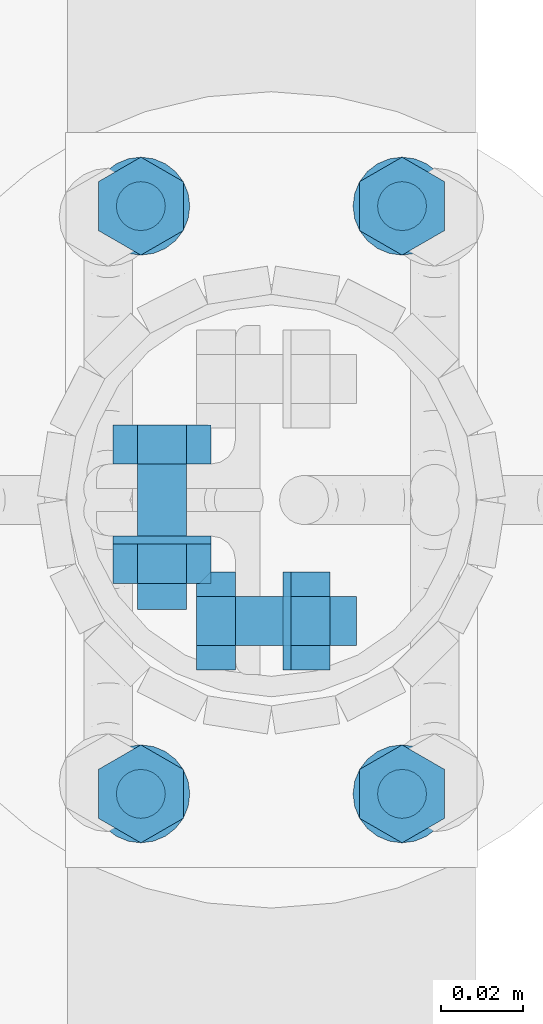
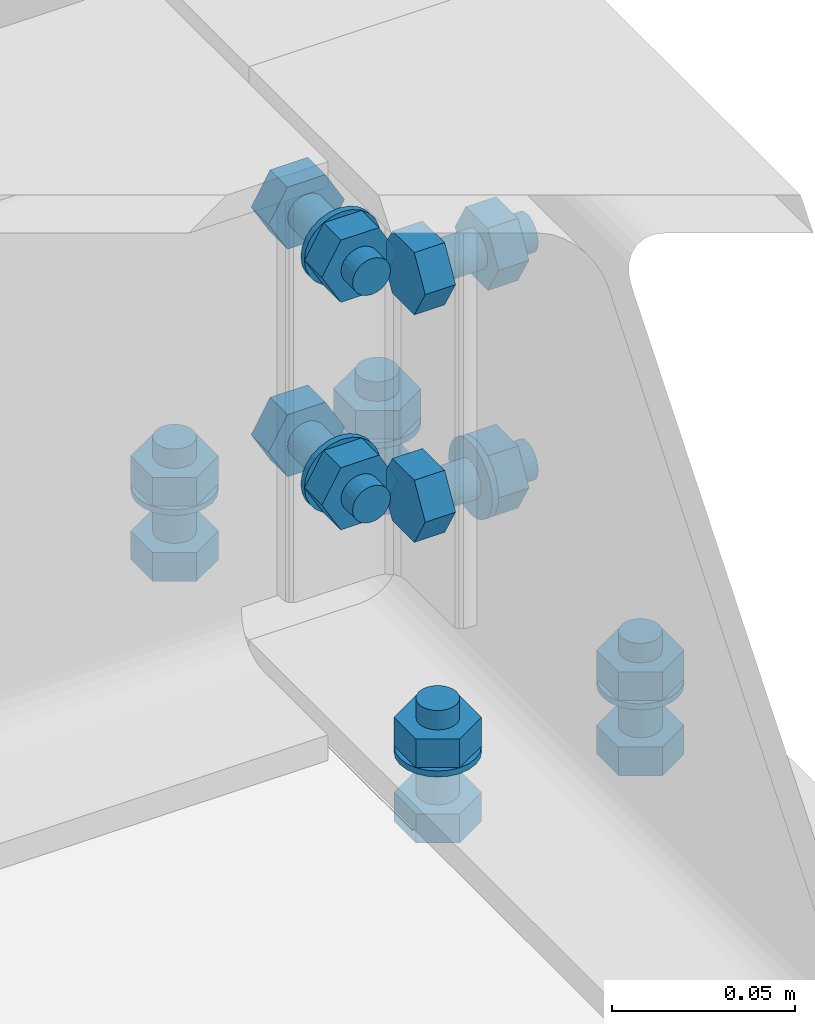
# One storey, part 65 of 84: 39 mechanical fasteners.
"""IFC4 building model written with IfcOpenShell, lengths in metres."""

from ifc_helpers import new_model, si_unit, frame, origin_with_axes, place, context, project, spatial, polyline, outline, extrude, type_object, element, save


model = new_model("IFC4")

# Units and contexts
model_context = context("Model", 3, precision=1e-05, world=origin_with_axes())
ifc_project = project(units=[si_unit("LENGTHUNIT", "METRE"), si_unit("AREAUNIT", "SQUARE_METRE"), si_unit("VOLUMEUNIT", "CUBIC_METRE"), si_unit("MASSUNIT", "GRAM", prefix="KILO"), si_unit("TIMEUNIT", "SECOND"), si_unit("PLANEANGLEUNIT", "RADIAN"), si_unit("SOLIDANGLEUNIT", "STERADIAN"), si_unit("THERMODYNAMICTEMPERATUREUNIT", "DEGREE_CELSIUS")], contexts=[model_context])

# Site, building, storey
placement_1 = place(None, origin_with_axes())
site = spatial("IfcSite", under=ifc_project, at=placement_1, Name="Italia", CompositionType="ELEMENT")
building = spatial("IfcBuilding", under=site, at=placement_1, Name="Tettoia", CompositionType="ELEMENT")
storey_placement = place(None, frame((0.0, 0.0, 4.199999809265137), z_axis=(0.0, 0.0, 1.0), x_axis=(1.0, 0.0, 0.0)))
storey = spatial("IfcBuildingStorey", under=building, at=storey_placement, Name="Storey 1", CompositionType="ELEMENT", Elevation=4.199999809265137)

# Mechanical fasteners
mechanical_fastener_type_1 = type_object("IfcMechanicalFastenerType", Name="Collegamento 0110_-010", PredefinedType="BOLT")
placement_2 = place(placement_1, origin_with_axes())
mechanical_fastener_1_placement = place(placement_2, origin_with_axes())
element("IfcMechanicalFastener", 1, at=mechanical_fastener_1_placement, inside=storey, type_object=mechanical_fastener_type_1, Name="Collegamento 0110_-010", NominalDiameter=0.0119997, context=model_context, shape_type="SweptSolid", body=[
    extrude(outline(polyline([(0.0, 0.0), (0.0120001, 0.0), (0.0179996, -0.0103931), (0.0120001, -0.0207853), (0.0, -0.0207853), (-0.00599957, -0.0103931), (0.0, 0.0)])), frame((11.3324, 10.036, 4.195), z_axis=(0.0, 0.0, -1.0), x_axis=(0.0, 1.0, 0.0)), (0.0, 0.0, 1.0), 0.00959969),
])
mechanical_fastener_type_2 = type_object("IfcMechanicalFastenerType", Name="Collegamento 0110_-010", PredefinedType="BOLT")
mechanical_fastener_2_placement = place(placement_2, origin_with_axes())
element("IfcMechanicalFastener", 2, at=mechanical_fastener_2_placement, inside=storey, type_object=mechanical_fastener_type_2, Name="Collegamento 0110_-010", NominalDiameter=0.012, context=model_context, shape_type="SweptSolid", body=[
    extrude(outline(polyline([(0.0, 0.0), (-0.000204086, -0.00155258), (-0.000802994, -0.00300026), (-0.00175667, -0.0042429), (-0.00299931, -0.00519657), (-0.00444698, -0.00579548), (-0.00599957, -0.00599957), (-0.00755215, -0.00579548), (-0.00899982, -0.00519657), (-0.0102425, -0.0042429), (-0.0111961, -0.00300026), (-0.011795, -0.00155258), (-0.0119991, 0.0), (-0.011795, 0.00155258), (-0.0111961, 0.00300026), (-0.0102425, 0.0042429), (-0.00899982, 0.00519657), (-0.00755215, 0.00579548), (-0.00599957, 0.00599957), (-0.00444698, 0.00579548), (-0.00299931, 0.00519657), (-0.00175667, 0.0042429), (-0.000802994, 0.00300026), (-0.000204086, 0.00155258), (0.0, 0.0)])), frame((11.322, 10.048, 4.2265), z_axis=(0.0, 0.0, -1.0), x_axis=(0.0, 1.0, 0.0)), (0.0, 0.0, 1.0), 0.0315003),
])
mechanical_fastener_type_3 = type_object("IfcMechanicalFastenerType", Name="Collegamento 0110_-010", PredefinedType="BOLT")
mechanical_fastener_3_placement = place(placement_2, origin_with_axes())
element("IfcMechanicalFastener", 3, at=mechanical_fastener_3_placement, inside=storey, type_object=mechanical_fastener_type_3, Name="Collegamento 0110_-010", NominalDiameter=0.0119997, context=model_context, shape_type="SweptSolid", body=[
    extrude(outline(polyline([(0.0, 0.0), (0.0120001, 0.0), (0.0179996, -0.0103931), (0.0120001, -0.0207853), (0.0, -0.0207853), (-0.00599957, -0.0103931), (0.0, 0.0)])), frame((11.3324, 10.036, 4.2201), z_axis=(0.0, 0.0, -1.0), x_axis=(0.0, 1.0, 0.0)), (0.0, 0.0, 1.0), 0.00960016),
])
mechanical_fastener_type_4 = type_object("IfcMechanicalFastenerType", Name="Collegamento 0110_-010", PredefinedType="BOLT")
mechanical_fastener_4_placement = place(placement_2, origin_with_axes())
element("IfcMechanicalFastener", 4, at=mechanical_fastener_4_placement, inside=storey, type_object=mechanical_fastener_type_4, Name="Collegamento 0110_-010", NominalDiameter=0.024, context=model_context, shape_type="SweptSolid", body=[
    extrude(outline(polyline([(0.0, 0.0), (-0.000409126, -0.00310612), (-0.00160789, -0.00599957), (-0.00351524, -0.00848484), (-0.00600052, -0.0103922), (-0.00889397, -0.011591), (-0.0120001, -0.0120001), (-0.0151062, -0.011591), (-0.0179996, -0.0103922), (-0.0204849, -0.00848484), (-0.0223923, -0.00599957), (-0.023591, -0.00310612), (-0.0240002, 0.0), (-0.023591, 0.00310612), (-0.0223923, 0.00599957), (-0.0204849, 0.00848484), (-0.0179996, 0.0103922), (-0.0151062, 0.011591), (-0.0120001, 0.0120001), (-0.00889397, 0.011591), (-0.00600052, 0.0103922), (-0.00351524, 0.00848484), (-0.00160789, 0.00599957), (-0.000409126, 0.00310612), (0.0, 0.0)])), frame((11.322, 10.054, 4.2105), z_axis=(0.0, 0.0, -1.0), x_axis=(0.0, 1.0, 0.0)), (0.0, 0.0, 1.0), 0.00199986),
])
mechanical_fastener_type_5 = type_object("IfcMechanicalFastenerType", Name="Collegamento 0110_-010", PredefinedType="BOLT")
mechanical_fastener_5_placement = place(placement_2, origin_with_axes())
element("IfcMechanicalFastener", 5, at=mechanical_fastener_5_placement, inside=storey, type_object=mechanical_fastener_type_5, Name="Collegamento 0110_-010", NominalDiameter=0.0119997, context=model_context, shape_type="SweptSolid", body=[
    extrude(outline(polyline([(0.0, 0.0), (0.0120001, 0.0), (0.0179996, -0.0103931), (0.0120001, -0.0207853), (0.0, -0.0207853), (-0.00599957, -0.0103931), (0.0, 0.0)])), frame((11.3324, 9.892, 4.195), z_axis=(0.0, 0.0, -1.0), x_axis=(0.0, 1.0, 0.0)), (0.0, 0.0, 1.0), 0.00959969),
])
mechanical_fastener_type_6 = type_object("IfcMechanicalFastenerType", Name="Collegamento 0110_-010", PredefinedType="BOLT")
mechanical_fastener_6_placement = place(placement_2, origin_with_axes())
element("IfcMechanicalFastener", 6, at=mechanical_fastener_6_placement, inside=storey, type_object=mechanical_fastener_type_6, Name="Collegamento 0110_-010", NominalDiameter=0.012, context=model_context, shape_type="SweptSolid", body=[
    extrude(outline(polyline([(0.0, 0.0), (-0.000204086, -0.00155258), (-0.000802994, -0.00300026), (-0.00175667, -0.0042429), (-0.00299931, -0.00519657), (-0.00444698, -0.00579548), (-0.00599957, -0.00599957), (-0.00755215, -0.00579548), (-0.00899982, -0.00519657), (-0.0102425, -0.0042429), (-0.0111961, -0.00300026), (-0.011795, -0.00155258), (-0.0119991, 0.0), (-0.011795, 0.00155258), (-0.0111961, 0.00300026), (-0.0102425, 0.0042429), (-0.00899982, 0.00519657), (-0.00755215, 0.00579548), (-0.00599957, 0.00599957), (-0.00444698, 0.00579548), (-0.00299931, 0.00519657), (-0.00175667, 0.0042429), (-0.000802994, 0.00300026), (-0.000204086, 0.00155258), (0.0, 0.0)])), frame((11.322, 9.904, 4.2265), z_axis=(0.0, 0.0, -1.0), x_axis=(0.0, 1.0, 0.0)), (0.0, 0.0, 1.0), 0.0315003),
])
mechanical_fastener_type_7 = type_object("IfcMechanicalFastenerType", Name="Collegamento 0110_-010", PredefinedType="BOLT")
mechanical_fastener_7_placement = place(placement_2, origin_with_axes())
element("IfcMechanicalFastener", 7, at=mechanical_fastener_7_placement, inside=storey, type_object=mechanical_fastener_type_7, Name="Collegamento 0110_-010", NominalDiameter=0.0119997, context=model_context, shape_type="SweptSolid", body=[
    extrude(outline(polyline([(0.0, 0.0), (0.0120001, 0.0), (0.0179996, -0.0103931), (0.0120001, -0.0207853), (0.0, -0.0207853), (-0.00599957, -0.0103931), (0.0, 0.0)])), frame((11.3324, 9.892, 4.2201), z_axis=(0.0, 0.0, -1.0), x_axis=(0.0, 1.0, 0.0)), (0.0, 0.0, 1.0), 0.00960016),
])
mechanical_fastener_type_8 = type_object("IfcMechanicalFastenerType", Name="Collegamento 0110_-010", PredefinedType="BOLT")
mechanical_fastener_8_placement = place(placement_2, origin_with_axes())
element("IfcMechanicalFastener", 8, at=mechanical_fastener_8_placement, inside=storey, type_object=mechanical_fastener_type_8, Name="Collegamento 0110_-010", NominalDiameter=0.024, context=model_context, shape_type="SweptSolid", body=[
    extrude(outline(polyline([(0.0, 0.0), (-0.000409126, -0.00310612), (-0.00160789, -0.00599957), (-0.00351524, -0.00848484), (-0.00600052, -0.0103922), (-0.00889397, -0.011591), (-0.0120001, -0.0120001), (-0.0151062, -0.011591), (-0.0179996, -0.0103922), (-0.0204849, -0.00848484), (-0.0223923, -0.00599957), (-0.023591, -0.00310612), (-0.0240002, 0.0), (-0.023591, 0.00310612), (-0.0223923, 0.00599957), (-0.0204849, 0.00848484), (-0.0179996, 0.0103922), (-0.0151062, 0.011591), (-0.0120001, 0.0120001), (-0.00889397, 0.011591), (-0.00600052, 0.0103922), (-0.00351524, 0.00848484), (-0.00160789, 0.00599957), (-0.000409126, 0.00310612), (0.0, 0.0)])), frame((11.322, 9.91, 4.2105), z_axis=(0.0, 0.0, -1.0), x_axis=(0.0, 1.0, 0.0)), (0.0, 0.0, 1.0), 0.00199986),
])
mechanical_fastener_type_9 = type_object("IfcMechanicalFastenerType", Name="Collegamento 0110_-010", PredefinedType="BOLT")
mechanical_fastener_9_placement = place(placement_2, origin_with_axes())
element("IfcMechanicalFastener", 9, at=mechanical_fastener_9_placement, inside=storey, type_object=mechanical_fastener_type_9, Name="Collegamento 0110_-010", NominalDiameter=0.0119997, context=model_context, shape_type="SweptSolid", body=[
    extrude(outline(polyline([(0.0, 0.0), (0.0120001, 0.0), (0.0179996, -0.0103922), (0.0120001, -0.0207853), (0.0, -0.0207853), (-0.00599957, -0.0103922), (0.0, 0.0)])), frame((11.2684, 10.036, 4.195), z_axis=(0.0, 0.0, -1.0), x_axis=(0.0, 1.0, 0.0)), (0.0, 0.0, 1.0), 0.00959969),
])
mechanical_fastener_type_10 = type_object("IfcMechanicalFastenerType", Name="Collegamento 0110_-010", PredefinedType="BOLT")
mechanical_fastener_10_placement = place(placement_2, origin_with_axes())
element("IfcMechanicalFastener", 10, at=mechanical_fastener_10_placement, inside=storey, type_object=mechanical_fastener_type_10, Name="Collegamento 0110_-010", NominalDiameter=0.012, context=model_context, shape_type="SweptSolid", body=[
    extrude(outline(polyline([(0.0, 0.0), (-0.000204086, -0.00155258), (-0.000802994, -0.00300026), (-0.00175667, -0.0042429), (-0.00299931, -0.00519657), (-0.00444698, -0.00579548), (-0.00599957, -0.00599957), (-0.00755215, -0.00579548), (-0.00899982, -0.00519657), (-0.0102425, -0.0042429), (-0.0111961, -0.00300026), (-0.011795, -0.00155258), (-0.0119991, 0.0), (-0.011795, 0.00155258), (-0.0111961, 0.00300026), (-0.0102425, 0.0042429), (-0.00899982, 0.00519657), (-0.00755215, 0.00579548), (-0.00599957, 0.00599957), (-0.00444698, 0.00579548), (-0.00299931, 0.00519657), (-0.00175667, 0.0042429), (-0.000802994, 0.00300026), (-0.000204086, 0.00155258), (0.0, 0.0)])), frame((11.258, 10.048, 4.2265), z_axis=(0.0, 0.0, -1.0), x_axis=(0.0, 1.0, 0.0)), (0.0, 0.0, 1.0), 0.0315003),
])
mechanical_fastener_type_11 = type_object("IfcMechanicalFastenerType", Name="Collegamento 0110_-010", PredefinedType="BOLT")
mechanical_fastener_11_placement = place(placement_2, origin_with_axes())
element("IfcMechanicalFastener", 11, at=mechanical_fastener_11_placement, inside=storey, type_object=mechanical_fastener_type_11, Name="Collegamento 0110_-010", NominalDiameter=0.0119997, context=model_context, shape_type="SweptSolid", body=[
    extrude(outline(polyline([(0.0, 0.0), (0.0120001, 0.0), (0.0179996, -0.0103922), (0.0120001, -0.0207853), (0.0, -0.0207853), (-0.00599957, -0.0103922), (0.0, 0.0)])), frame((11.2684, 10.036, 4.2201), z_axis=(0.0, 0.0, -1.0), x_axis=(0.0, 1.0, 0.0)), (0.0, 0.0, 1.0), 0.00960016),
])
mechanical_fastener_type_12 = type_object("IfcMechanicalFastenerType", Name="Collegamento 0110_-010", PredefinedType="BOLT")
mechanical_fastener_12_placement = place(placement_2, origin_with_axes())
element("IfcMechanicalFastener", 12, at=mechanical_fastener_12_placement, inside=storey, type_object=mechanical_fastener_type_12, Name="Collegamento 0110_-010", NominalDiameter=0.024, context=model_context, shape_type="SweptSolid", body=[
    extrude(outline(polyline([(0.0, 0.0), (-0.000409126, -0.00310612), (-0.00160789, -0.00599957), (-0.00351524, -0.00848484), (-0.00600052, -0.0103922), (-0.00889397, -0.011591), (-0.0120001, -0.0120001), (-0.0151062, -0.011591), (-0.0179996, -0.0103922), (-0.0204849, -0.00848484), (-0.0223923, -0.00599957), (-0.023591, -0.00310612), (-0.0240002, 0.0), (-0.023591, 0.00310612), (-0.0223923, 0.00599957), (-0.0204849, 0.00848484), (-0.0179996, 0.0103922), (-0.0151062, 0.011591), (-0.0120001, 0.0120001), (-0.00889397, 0.011591), (-0.00600052, 0.0103922), (-0.00351524, 0.00848484), (-0.00160789, 0.00599957), (-0.000409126, 0.00310612), (0.0, 0.0)])), frame((11.258, 10.054, 4.2105), z_axis=(0.0, 0.0, -1.0), x_axis=(0.0, 1.0, 0.0)), (0.0, 0.0, 1.0), 0.00199986),
])
mechanical_fastener_type_13 = type_object("IfcMechanicalFastenerType", Name="Collegamento 0110_-010", PredefinedType="BOLT")
mechanical_fastener_13_placement = place(placement_2, origin_with_axes())
element("IfcMechanicalFastener", 13, at=mechanical_fastener_13_placement, inside=storey, type_object=mechanical_fastener_type_13, Name="Collegamento 0110_-010", NominalDiameter=0.0119997, context=model_context, shape_type="SweptSolid", body=[
    extrude(outline(polyline([(0.0, 0.0), (0.0120001, 0.0), (0.0179996, -0.0103922), (0.0120001, -0.0207853), (0.0, -0.0207853), (-0.00599957, -0.0103922), (0.0, 0.0)])), frame((11.2684, 9.892, 4.195), z_axis=(0.0, 0.0, -1.0), x_axis=(0.0, 1.0, 0.0)), (0.0, 0.0, 1.0), 0.00959969),
])
mechanical_fastener_type_14 = type_object("IfcMechanicalFastenerType", Name="Collegamento 0110_-010", PredefinedType="BOLT")
mechanical_fastener_14_placement = place(placement_2, origin_with_axes())
element("IfcMechanicalFastener", 14, at=mechanical_fastener_14_placement, inside=storey, type_object=mechanical_fastener_type_14, Name="Collegamento 0110_-010", NominalDiameter=0.012, context=model_context, shape_type="SweptSolid", body=[
    extrude(outline(polyline([(0.0, 0.0), (-0.000204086, -0.00155258), (-0.000802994, -0.00300026), (-0.00175667, -0.0042429), (-0.00299931, -0.00519657), (-0.00444698, -0.00579548), (-0.00599957, -0.00599957), (-0.00755215, -0.00579548), (-0.00899982, -0.00519657), (-0.0102425, -0.0042429), (-0.0111961, -0.00300026), (-0.011795, -0.00155258), (-0.0119991, 0.0), (-0.011795, 0.00155258), (-0.0111961, 0.00300026), (-0.0102425, 0.0042429), (-0.00899982, 0.00519657), (-0.00755215, 0.00579548), (-0.00599957, 0.00599957), (-0.00444698, 0.00579548), (-0.00299931, 0.00519657), (-0.00175667, 0.0042429), (-0.000802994, 0.00300026), (-0.000204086, 0.00155258), (0.0, 0.0)])), frame((11.258, 9.904, 4.2265), z_axis=(0.0, 0.0, -1.0), x_axis=(0.0, 1.0, 0.0)), (0.0, 0.0, 1.0), 0.0315003),
])
mechanical_fastener_type_15 = type_object("IfcMechanicalFastenerType", Name="Collegamento 0110_-010", PredefinedType="BOLT")
mechanical_fastener_15_placement = place(placement_2, origin_with_axes())
element("IfcMechanicalFastener", 15, at=mechanical_fastener_15_placement, inside=storey, type_object=mechanical_fastener_type_15, Name="Collegamento 0110_-010", NominalDiameter=0.0119997, context=model_context, shape_type="SweptSolid", body=[
    extrude(outline(polyline([(0.0, 0.0), (0.0120001, 0.0), (0.0179996, -0.0103922), (0.0120001, -0.0207853), (0.0, -0.0207853), (-0.00599957, -0.0103922), (0.0, 0.0)])), frame((11.2684, 9.892, 4.2201), z_axis=(0.0, 0.0, -1.0), x_axis=(0.0, 1.0, 0.0)), (0.0, 0.0, 1.0), 0.00960016),
])
mechanical_fastener_type_16 = type_object("IfcMechanicalFastenerType", Name="Collegamento 0110_-010", PredefinedType="BOLT")
mechanical_fastener_16_placement = place(placement_2, origin_with_axes())
element("IfcMechanicalFastener", 16, at=mechanical_fastener_16_placement, inside=storey, type_object=mechanical_fastener_type_16, Name="Collegamento 0110_-010", NominalDiameter=0.024, context=model_context, shape_type="SweptSolid", body=[
    extrude(outline(polyline([(0.0, 0.0), (-0.000409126, -0.00310612), (-0.00160789, -0.00599957), (-0.00351524, -0.00848484), (-0.00600052, -0.0103922), (-0.00889397, -0.011591), (-0.0120001, -0.0120001), (-0.0151062, -0.011591), (-0.0179996, -0.0103922), (-0.0204849, -0.00848484), (-0.0223923, -0.00599957), (-0.023591, -0.00310612), (-0.0240002, 0.0), (-0.023591, 0.00310612), (-0.0223923, 0.00599957), (-0.0204849, 0.00848484), (-0.0179996, 0.0103922), (-0.0151062, 0.011591), (-0.0120001, 0.0120001), (-0.00889397, 0.011591), (-0.00600052, 0.0103922), (-0.00351524, 0.00848484), (-0.00160789, 0.00599957), (-0.000409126, 0.00310612), (0.0, 0.0)])), frame((11.258, 9.91, 4.2105), z_axis=(0.0, 0.0, -1.0), x_axis=(0.0, 1.0, 0.0)), (0.0, 0.0, 1.0), 0.00199986),
])
mechanical_fastener_type_17 = type_object("IfcMechanicalFastenerType", Name="Collegamento 0110_0109", PredefinedType="BOLT")
mechanical_fastener_17_placement = place(placement_2, origin_with_axes())
element("IfcMechanicalFastener", 17, at=mechanical_fastener_17_placement, inside=storey, type_object=mechanical_fastener_type_17, Name="Collegamento 0110_0109", NominalDiameter=0.0119997, context=model_context, shape_type="SweptSolid", body=[
    extrude(outline(polyline([(0.0, 0.0), (-0.0120001, 0.0), (-0.0179996, 0.0103922), (-0.0120001, 0.0207844), (0.0, 0.0207844), (0.00600052, 0.0103922), (0.0, 0.0)])), frame((11.2572, 9.9788, 4.25161), z_axis=(0.0, 1.0, 0.0), x_axis=(-1.0, 0.0, 0.0)), (0.0, 0.0, 1.0), 0.00960064),
])
mechanical_fastener_type_18 = type_object("IfcMechanicalFastenerType", Name="Collegamento 0110_0109", PredefinedType="BOLT")
mechanical_fastener_18_placement = place(placement_2, origin_with_axes())
element("IfcMechanicalFastener", 18, at=mechanical_fastener_18_placement, inside=storey, type_object=mechanical_fastener_type_18, Name="Collegamento 0110_0109", NominalDiameter=0.012, context=model_context, shape_type="SweptSolid", body=[
    extrude(outline(polyline([(0.0, 0.0), (-0.000204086, -0.00155306), (-0.000802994, -0.00299978), (-0.00175667, -0.00424242), (-0.00299931, -0.00519609), (-0.00444698, -0.00579548), (-0.00599957, -0.00600004), (-0.00755215, -0.00579548), (-0.00899982, -0.00519609), (-0.0102425, -0.00424242), (-0.0111961, -0.00299978), (-0.011795, -0.00155306), (-0.0119991, 0.0), (-0.011795, 0.00155306), (-0.0111961, 0.00299978), (-0.0102425, 0.00424242), (-0.00899982, 0.00519609), (-0.00755215, 0.00579548), (-0.00599957, 0.00600004), (-0.00444698, 0.00579548), (-0.00299931, 0.00519609), (-0.00175667, 0.00424242), (-0.000802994, 0.00299978), (-0.000204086, 0.00155306), (0.0, 0.0)])), frame((11.2572, 9.9432, 4.262), z_axis=(0.0, 1.0, 0.0), x_axis=(-1.0, 0.0, 0.0)), (0.0, 0.0, 1.0), 0.0355997),
])
mechanical_fastener_type_19 = type_object("IfcMechanicalFastenerType", Name="Collegamento 0110_0109", PredefinedType="BOLT")
mechanical_fastener_19_placement = place(placement_2, origin_with_axes())
element("IfcMechanicalFastener", 19, at=mechanical_fastener_19_placement, inside=storey, type_object=mechanical_fastener_type_19, Name="Collegamento 0110_0109", NominalDiameter=0.0119997, context=model_context, shape_type="SweptSolid", body=[
    extrude(outline(polyline([(0.0, 0.0), (-0.0120001, 0.0), (-0.0179996, 0.0103922), (-0.0120001, 0.0207844), (0.0, 0.0207844), (0.00600052, 0.0103922), (0.0, 0.0)])), frame((11.2572, 9.9496, 4.25161), z_axis=(0.0, 1.0, 0.0), x_axis=(-1.0, 0.0, 0.0)), (0.0, 0.0, 1.0), 0.00959969),
])
mechanical_fastener_type_20 = type_object("IfcMechanicalFastenerType", Name="Collegamento 0110_0109", PredefinedType="BOLT")
mechanical_fastener_20_placement = place(placement_2, origin_with_axes())
element("IfcMechanicalFastener", 20, at=mechanical_fastener_20_placement, inside=storey, type_object=mechanical_fastener_type_20, Name="Collegamento 0110_0109", NominalDiameter=0.024, context=model_context, shape_type="SweptSolid", body=[
    extrude(outline(polyline([(0.0, 0.0), (-0.000409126, -0.00310564), (-0.00160789, -0.00600004), (-0.00351524, -0.00848532), (-0.00600052, -0.0103922), (-0.00889397, -0.011591), (-0.0120001, -0.0120001), (-0.0151062, -0.011591), (-0.0179996, -0.0103922), (-0.0204849, -0.00848532), (-0.0223923, -0.00600004), (-0.023591, -0.00310564), (-0.0240002, 0.0), (-0.023591, 0.00310564), (-0.0223923, 0.00600004), (-0.0204849, 0.00848532), (-0.0179996, 0.0103922), (-0.0151062, 0.011591), (-0.0120001, 0.0120001), (-0.00889397, 0.011591), (-0.00600052, 0.0103922), (-0.00351524, 0.00848532), (-0.00160789, 0.00600004), (-0.000409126, 0.00310564), (0.0, 0.0)])), frame((11.2512, 9.9592, 4.262), z_axis=(0.0, 1.0, 0.0), x_axis=(-1.0, 0.0, 0.0)), (0.0, 0.0, 1.0), 0.00200081),
])
mechanical_fastener_type_21 = type_object("IfcMechanicalFastenerType", Name="Collegamento 0110_0109", PredefinedType="BOLT")
mechanical_fastener_21_placement = place(placement_2, origin_with_axes())
element("IfcMechanicalFastener", 21, at=mechanical_fastener_21_placement, inside=storey, type_object=mechanical_fastener_type_21, Name="Collegamento 0110_0109", NominalDiameter=0.0119997, context=model_context, shape_type="SweptSolid", body=[
    extrude(outline(polyline([(0.0, 0.0), (-0.0120001, 0.0), (-0.0179996, 0.0103922), (-0.0120001, 0.0207844), (0.0, 0.0207844), (0.00600052, 0.0103922), (0.0, 0.0)])), frame((11.2572, 9.9788, 4.32761), z_axis=(0.0, 1.0, 0.0), x_axis=(-1.0, 0.0, 0.0)), (0.0, 0.0, 1.0), 0.00960064),
])
mechanical_fastener_type_22 = type_object("IfcMechanicalFastenerType", Name="Collegamento 0110_0109", PredefinedType="BOLT")
mechanical_fastener_22_placement = place(placement_2, origin_with_axes())
element("IfcMechanicalFastener", 22, at=mechanical_fastener_22_placement, inside=storey, type_object=mechanical_fastener_type_22, Name="Collegamento 0110_0109", NominalDiameter=0.012, context=model_context, shape_type="SweptSolid", body=[
    extrude(outline(polyline([(0.0, 0.0), (-0.000204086, -0.00155306), (-0.000802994, -0.00299978), (-0.00175667, -0.00424242), (-0.00299931, -0.00519609), (-0.00444698, -0.00579548), (-0.00599957, -0.00600004), (-0.00755215, -0.00579548), (-0.00899982, -0.00519609), (-0.0102425, -0.00424242), (-0.0111961, -0.00299978), (-0.011795, -0.00155306), (-0.0119991, 0.0), (-0.011795, 0.00155306), (-0.0111961, 0.00299978), (-0.0102425, 0.00424242), (-0.00899982, 0.00519609), (-0.00755215, 0.00579548), (-0.00599957, 0.00600004), (-0.00444698, 0.00579548), (-0.00299931, 0.00519609), (-0.00175667, 0.00424242), (-0.000802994, 0.00299978), (-0.000204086, 0.00155306), (0.0, 0.0)])), frame((11.2572, 9.9432, 4.338), z_axis=(0.0, 1.0, 0.0), x_axis=(-1.0, 0.0, 0.0)), (0.0, 0.0, 1.0), 0.0355997),
])
mechanical_fastener_type_23 = type_object("IfcMechanicalFastenerType", Name="Collegamento 0110_0109", PredefinedType="BOLT")
mechanical_fastener_23_placement = place(placement_2, origin_with_axes())
element("IfcMechanicalFastener", 23, at=mechanical_fastener_23_placement, inside=storey, type_object=mechanical_fastener_type_23, Name="Collegamento 0110_0109", NominalDiameter=0.0119997, context=model_context, shape_type="SweptSolid", body=[
    extrude(outline(polyline([(0.0, 0.0), (-0.0120001, 0.0), (-0.0179996, 0.0103922), (-0.0120001, 0.0207844), (0.0, 0.0207844), (0.00600052, 0.0103922), (0.0, 0.0)])), frame((11.2572, 9.9496, 4.32761), z_axis=(0.0, 1.0, 0.0), x_axis=(-1.0, 0.0, 0.0)), (0.0, 0.0, 1.0), 0.00959969),
])
mechanical_fastener_type_24 = type_object("IfcMechanicalFastenerType", Name="Collegamento 0110_0109", PredefinedType="BOLT")
mechanical_fastener_24_placement = place(placement_2, origin_with_axes())
element("IfcMechanicalFastener", 24, at=mechanical_fastener_24_placement, inside=storey, type_object=mechanical_fastener_type_24, Name="Collegamento 0110_0109", NominalDiameter=0.024, context=model_context, shape_type="SweptSolid", body=[
    extrude(outline(polyline([(0.0, 0.0), (-0.000409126, -0.00310564), (-0.00160789, -0.00600004), (-0.00351524, -0.00848532), (-0.00600052, -0.0103922), (-0.00889397, -0.011591), (-0.0120001, -0.0120001), (-0.0151062, -0.011591), (-0.0179996, -0.0103922), (-0.0204849, -0.00848532), (-0.0223923, -0.00600004), (-0.023591, -0.00310564), (-0.0240002, 0.0), (-0.023591, 0.00310564), (-0.0223923, 0.00600004), (-0.0204849, 0.00848532), (-0.0179996, 0.0103922), (-0.0151062, 0.011591), (-0.0120001, 0.0120001), (-0.00889397, 0.011591), (-0.00600052, 0.0103922), (-0.00351524, 0.00848532), (-0.00160789, 0.00600004), (-0.000409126, 0.00310564), (0.0, 0.0)])), frame((11.2512, 9.9592, 4.338), z_axis=(0.0, 1.0, 0.0), x_axis=(-1.0, 0.0, 0.0)), (0.0, 0.0, 1.0), 0.00200081),
])
mechanical_fastener_type_25 = type_object("IfcMechanicalFastenerType", Name="Collegamento 0110_0109", PredefinedType="BOLT")
mechanical_fastener_25_placement = place(placement_2, origin_with_axes())
element("IfcMechanicalFastener", 25, at=mechanical_fastener_25_placement, inside=storey, type_object=mechanical_fastener_type_25, Name="Collegamento 0110_0109", NominalDiameter=0.0119997, context=model_context, shape_type="SweptSolid", body=[
    extrude(outline(polyline([(0.0, 0.0), (-0.0120001, 0.0), (-0.0179996, 0.0103922), (-0.0120001, 0.0207844), (0.0, 0.0207844), (0.00600052, 0.0103922), (0.0, 0.0)])), frame((11.2572, 9.9788, 4.25161), z_axis=(0.0, 1.0, 0.0), x_axis=(-1.0, 0.0, 0.0)), (0.0, 0.0, 1.0), 0.00960064),
])
mechanical_fastener_type_26 = type_object("IfcMechanicalFastenerType", Name="Collegamento 0110_0109", PredefinedType="BOLT")
mechanical_fastener_26_placement = place(placement_2, origin_with_axes())
element("IfcMechanicalFastener", 26, at=mechanical_fastener_26_placement, inside=storey, type_object=mechanical_fastener_type_26, Name="Collegamento 0110_0109", NominalDiameter=0.012, context=model_context, shape_type="SweptSolid", body=[
    extrude(outline(polyline([(0.0, 0.0), (-0.000204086, -0.00155306), (-0.000802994, -0.00299978), (-0.00175667, -0.00424242), (-0.00299931, -0.00519609), (-0.00444698, -0.00579548), (-0.00599957, -0.00600004), (-0.00755215, -0.00579548), (-0.00899982, -0.00519609), (-0.0102425, -0.00424242), (-0.0111961, -0.00299978), (-0.011795, -0.00155306), (-0.0119991, 0.0), (-0.011795, 0.00155306), (-0.0111961, 0.00299978), (-0.0102425, 0.00424242), (-0.00899982, 0.00519609), (-0.00755215, 0.00579548), (-0.00599957, 0.00600004), (-0.00444698, 0.00579548), (-0.00299931, 0.00519609), (-0.00175667, 0.00424242), (-0.000802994, 0.00299978), (-0.000204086, 0.00155306), (0.0, 0.0)])), frame((11.2572, 9.9432, 4.262), z_axis=(0.0, 1.0, 0.0), x_axis=(-1.0, 0.0, 0.0)), (0.0, 0.0, 1.0), 0.0355997),
])
mechanical_fastener_type_27 = type_object("IfcMechanicalFastenerType", Name="Collegamento 0110_0109", PredefinedType="BOLT")
mechanical_fastener_27_placement = place(placement_2, origin_with_axes())
element("IfcMechanicalFastener", 27, at=mechanical_fastener_27_placement, inside=storey, type_object=mechanical_fastener_type_27, Name="Collegamento 0110_0109", NominalDiameter=0.0119997, context=model_context, shape_type="SweptSolid", body=[
    extrude(outline(polyline([(0.0, 0.0), (-0.0120001, 0.0), (-0.0179996, 0.0103922), (-0.0120001, 0.0207844), (0.0, 0.0207844), (0.00600052, 0.0103922), (0.0, 0.0)])), frame((11.2572, 9.9496, 4.25161), z_axis=(0.0, 1.0, 0.0), x_axis=(-1.0, 0.0, 0.0)), (0.0, 0.0, 1.0), 0.00959969),
])
mechanical_fastener_type_28 = type_object("IfcMechanicalFastenerType", Name="Collegamento 0110_0109", PredefinedType="BOLT")
mechanical_fastener_28_placement = place(placement_2, origin_with_axes())
element("IfcMechanicalFastener", 28, at=mechanical_fastener_28_placement, inside=storey, type_object=mechanical_fastener_type_28, Name="Collegamento 0110_0109", NominalDiameter=0.024, context=model_context, shape_type="SweptSolid", body=[
    extrude(outline(polyline([(0.0, 0.0), (-0.000409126, -0.00310564), (-0.00160789, -0.00600004), (-0.00351524, -0.00848532), (-0.00600052, -0.0103922), (-0.00889397, -0.011591), (-0.0120001, -0.0120001), (-0.0151062, -0.011591), (-0.0179996, -0.0103922), (-0.0204849, -0.00848532), (-0.0223923, -0.00600004), (-0.023591, -0.00310564), (-0.0240002, 0.0), (-0.023591, 0.00310564), (-0.0223923, 0.00600004), (-0.0204849, 0.00848532), (-0.0179996, 0.0103922), (-0.0151062, 0.011591), (-0.0120001, 0.0120001), (-0.00889397, 0.011591), (-0.00600052, 0.0103922), (-0.00351524, 0.00848532), (-0.00160789, 0.00600004), (-0.000409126, 0.00310564), (0.0, 0.0)])), frame((11.2512, 9.9592, 4.262), z_axis=(0.0, 1.0, 0.0), x_axis=(-1.0, 0.0, 0.0)), (0.0, 0.0, 1.0), 0.00200081),
])
mechanical_fastener_type_29 = type_object("IfcMechanicalFastenerType", Name="Collegamento 0110_0109", PredefinedType="BOLT")
mechanical_fastener_29_placement = place(placement_2, origin_with_axes())
element("IfcMechanicalFastener", 29, at=mechanical_fastener_29_placement, inside=storey, type_object=mechanical_fastener_type_29, Name="Collegamento 0110_0109", NominalDiameter=0.0119997, context=model_context, shape_type="SweptSolid", body=[
    extrude(outline(polyline([(0.0, 0.0), (-0.0120001, 0.0), (-0.0179996, 0.0103922), (-0.0120001, 0.0207844), (0.0, 0.0207844), (0.00600052, 0.0103922), (0.0, 0.0)])), frame((11.2572, 9.9788, 4.32761), z_axis=(0.0, 1.0, 0.0), x_axis=(-1.0, 0.0, 0.0)), (0.0, 0.0, 1.0), 0.00960064),
])
mechanical_fastener_type_30 = type_object("IfcMechanicalFastenerType", Name="Collegamento 0110_0109", PredefinedType="BOLT")
mechanical_fastener_30_placement = place(placement_2, origin_with_axes())
element("IfcMechanicalFastener", 30, at=mechanical_fastener_30_placement, inside=storey, type_object=mechanical_fastener_type_30, Name="Collegamento 0110_0109", NominalDiameter=0.012, context=model_context, shape_type="SweptSolid", body=[
    extrude(outline(polyline([(0.0, 0.0), (-0.000204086, -0.00155306), (-0.000802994, -0.00299978), (-0.00175667, -0.00424242), (-0.00299931, -0.00519609), (-0.00444698, -0.00579548), (-0.00599957, -0.00600004), (-0.00755215, -0.00579548), (-0.00899982, -0.00519609), (-0.0102425, -0.00424242), (-0.0111961, -0.00299978), (-0.011795, -0.00155306), (-0.0119991, 0.0), (-0.011795, 0.00155306), (-0.0111961, 0.00299978), (-0.0102425, 0.00424242), (-0.00899982, 0.00519609), (-0.00755215, 0.00579548), (-0.00599957, 0.00600004), (-0.00444698, 0.00579548), (-0.00299931, 0.00519609), (-0.00175667, 0.00424242), (-0.000802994, 0.00299978), (-0.000204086, 0.00155306), (0.0, 0.0)])), frame((11.2572, 9.9432, 4.338), z_axis=(0.0, 1.0, 0.0), x_axis=(-1.0, 0.0, 0.0)), (0.0, 0.0, 1.0), 0.0355997),
])
mechanical_fastener_type_31 = type_object("IfcMechanicalFastenerType", Name="Collegamento 0110_0109", PredefinedType="BOLT")
mechanical_fastener_31_placement = place(placement_2, origin_with_axes())
element("IfcMechanicalFastener", 31, at=mechanical_fastener_31_placement, inside=storey, type_object=mechanical_fastener_type_31, Name="Collegamento 0110_0109", NominalDiameter=0.0119997, context=model_context, shape_type="SweptSolid", body=[
    extrude(outline(polyline([(0.0, 0.0), (-0.0120001, 0.0), (-0.0179996, 0.0103922), (-0.0120001, 0.0207844), (0.0, 0.0207844), (0.00600052, 0.0103922), (0.0, 0.0)])), frame((11.2572, 9.9496, 4.32761), z_axis=(0.0, 1.0, 0.0), x_axis=(-1.0, 0.0, 0.0)), (0.0, 0.0, 1.0), 0.00959969),
])
mechanical_fastener_type_32 = type_object("IfcMechanicalFastenerType", Name="Collegamento 0110_0109", PredefinedType="BOLT")
mechanical_fastener_32_placement = place(placement_2, origin_with_axes())
element("IfcMechanicalFastener", 32, at=mechanical_fastener_32_placement, inside=storey, type_object=mechanical_fastener_type_32, Name="Collegamento 0110_0109", NominalDiameter=0.024, context=model_context, shape_type="SweptSolid", body=[
    extrude(outline(polyline([(0.0, 0.0), (-0.000409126, -0.00310564), (-0.00160789, -0.00600004), (-0.00351524, -0.00848532), (-0.00600052, -0.0103922), (-0.00889397, -0.011591), (-0.0120001, -0.0120001), (-0.0151062, -0.011591), (-0.0179996, -0.0103922), (-0.0204849, -0.00848532), (-0.0223923, -0.00600004), (-0.023591, -0.00310564), (-0.0240002, 0.0), (-0.023591, 0.00310564), (-0.0223923, 0.00600004), (-0.0204849, 0.00848532), (-0.0179996, 0.0103922), (-0.0151062, 0.011591), (-0.0120001, 0.0120001), (-0.00889397, 0.011591), (-0.00600052, 0.0103922), (-0.00351524, 0.00848532), (-0.00160789, 0.00600004), (-0.000409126, 0.00310564), (0.0, 0.0)])), frame((11.2512, 9.9592, 4.338), z_axis=(0.0, 1.0, 0.0), x_axis=(-1.0, 0.0, 0.0)), (0.0, 0.0, 1.0), 0.00200081),
])
mechanical_fastener_type_33 = type_object("IfcMechanicalFastenerType", Name="Collegamento 0110_0109", PredefinedType="BOLT")
mechanical_fastener_33_placement = place(placement_2, origin_with_axes())
element("IfcMechanicalFastener", 33, at=mechanical_fastener_33_placement, inside=storey, type_object=mechanical_fastener_type_33, Name="Collegamento 0110_0109", NominalDiameter=0.0119997, context=model_context, shape_type="SweptSolid", body=[
    extrude(outline(polyline([(0.0, 0.0), (-0.0120001, 0.0), (-0.0179996, 0.0103922), (-0.0120001, 0.0207844), (0.0, 0.0207844), (0.00600052, 0.0103922), (0.0, 0.0)])), frame((11.2812, 9.9344, 4.25161), z_axis=(-1.0, 0.0, 0.0), x_axis=(0.0, -1.0, 0.0)), (0.0, 0.0, 1.0), 0.00960064),
])
mechanical_fastener_type_34 = type_object("IfcMechanicalFastenerType", Name="Collegamento 0110_0109", PredefinedType="BOLT")
mechanical_fastener_34_placement = place(placement_2, origin_with_axes())
element("IfcMechanicalFastener", 34, at=mechanical_fastener_34_placement, inside=storey, type_object=mechanical_fastener_type_34, Name="Collegamento 0110_0109", NominalDiameter=0.012, context=model_context, shape_type="SweptSolid", body=[
    extrude(outline(polyline([(0.0, 0.0), (-0.000204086, -0.00155306), (-0.000802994, -0.00299978), (-0.00175667, -0.00424242), (-0.00299931, -0.00519609), (-0.00444698, -0.00579548), (-0.00599957, -0.00600004), (-0.00755215, -0.00579548), (-0.00899982, -0.00519609), (-0.0102425, -0.00424242), (-0.0111961, -0.00299978), (-0.011795, -0.00155306), (-0.0119991, 0.0), (-0.011795, 0.00155306), (-0.0111961, 0.00299978), (-0.0102425, 0.00424242), (-0.00899982, 0.00519609), (-0.00755215, 0.00579548), (-0.00599957, 0.00600004), (-0.00444698, 0.00579548), (-0.00299931, 0.00519609), (-0.00175667, 0.00424242), (-0.000802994, 0.00299978), (-0.000204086, 0.00155306), (0.0, 0.0)])), frame((11.3108, 9.9344, 4.262), z_axis=(-1.0, 0.0, 0.0), x_axis=(0.0, -1.0, 0.0)), (0.0, 0.0, 1.0), 0.0295992),
])
mechanical_fastener_type_35 = type_object("IfcMechanicalFastenerType", Name="Collegamento 0110_0109", PredefinedType="BOLT")
mechanical_fastener_35_placement = place(placement_2, origin_with_axes())
element("IfcMechanicalFastener", 35, at=mechanical_fastener_35_placement, inside=storey, type_object=mechanical_fastener_type_35, Name="Collegamento 0110_0109", NominalDiameter=0.0119997, context=model_context, shape_type="SweptSolid", body=[
    extrude(outline(polyline([(0.0, 0.0), (-0.0120001, 0.0), (-0.0179996, 0.0103922), (-0.0120001, 0.0207844), (0.0, 0.0207844), (0.00600052, 0.0103922), (0.0, 0.0)])), frame((11.3044, 9.9344, 4.25161), z_axis=(-1.0, 0.0, 0.0), x_axis=(0.0, -1.0, 0.0)), (0.0, 0.0, 1.0), 0.00960064),
])
mechanical_fastener_type_36 = type_object("IfcMechanicalFastenerType", Name="Collegamento 0110_0109", PredefinedType="BOLT")
mechanical_fastener_36_placement = place(placement_2, origin_with_axes())
element("IfcMechanicalFastener", 36, at=mechanical_fastener_36_placement, inside=storey, type_object=mechanical_fastener_type_36, Name="Collegamento 0110_0109", NominalDiameter=0.024, context=model_context, shape_type="SweptSolid", body=[
    extrude(outline(polyline([(0.0, 0.0), (-0.000409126, -0.00310564), (-0.00160789, -0.00600004), (-0.00351524, -0.00848532), (-0.00600052, -0.0103922), (-0.00889397, -0.011591), (-0.0120001, -0.0120001), (-0.0151062, -0.011591), (-0.0179996, -0.0103922), (-0.0204849, -0.00848532), (-0.0223923, -0.00600004), (-0.023591, -0.00310564), (-0.0240002, 0.0), (-0.023591, 0.00310564), (-0.0223923, 0.00600004), (-0.0204849, 0.00848532), (-0.0179996, 0.0103922), (-0.0151062, 0.011591), (-0.0120001, 0.0120001), (-0.00889397, 0.011591), (-0.00600052, 0.0103922), (-0.00351524, 0.00848532), (-0.00160789, 0.00600004), (-0.000409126, 0.00310564), (0.0, 0.0)])), frame((11.2948, 9.9284, 4.262), z_axis=(-1.0, 0.0, 0.0), x_axis=(0.0, -1.0, 0.0)), (0.0, 0.0, 1.0), 0.00199986),
])
mechanical_fastener_type_37 = type_object("IfcMechanicalFastenerType", Name="Collegamento 0110_0109", PredefinedType="BOLT")
mechanical_fastener_37_placement = place(placement_2, origin_with_axes())
element("IfcMechanicalFastener", 37, at=mechanical_fastener_37_placement, inside=storey, type_object=mechanical_fastener_type_37, Name="Collegamento 0110_0109", NominalDiameter=0.0119997, context=model_context, shape_type="SweptSolid", body=[
    extrude(outline(polyline([(0.0, 0.0), (-0.0120001, 0.0), (-0.0179996, 0.0103922), (-0.0120001, 0.0207844), (0.0, 0.0207844), (0.00600052, 0.0103922), (0.0, 0.0)])), frame((11.2812, 9.9344, 4.32761), z_axis=(-1.0, 0.0, 0.0), x_axis=(0.0, -1.0, 0.0)), (0.0, 0.0, 1.0), 0.00960064),
])
mechanical_fastener_type_38 = type_object("IfcMechanicalFastenerType", Name="Collegamento 0110_0109", PredefinedType="BOLT")
mechanical_fastener_38_placement = place(placement_2, origin_with_axes())
element("IfcMechanicalFastener", 38, at=mechanical_fastener_38_placement, inside=storey, type_object=mechanical_fastener_type_38, Name="Collegamento 0110_0109", NominalDiameter=0.012, context=model_context, shape_type="SweptSolid", body=[
    extrude(outline(polyline([(0.0, 0.0), (-0.000204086, -0.00155306), (-0.000802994, -0.00299978), (-0.00175667, -0.00424242), (-0.00299931, -0.00519609), (-0.00444698, -0.00579548), (-0.00599957, -0.00600004), (-0.00755215, -0.00579548), (-0.00899982, -0.00519609), (-0.0102425, -0.00424242), (-0.0111961, -0.00299978), (-0.011795, -0.00155306), (-0.0119991, 0.0), (-0.011795, 0.00155306), (-0.0111961, 0.00299978), (-0.0102425, 0.00424242), (-0.00899982, 0.00519609), (-0.00755215, 0.00579548), (-0.00599957, 0.00600004), (-0.00444698, 0.00579548), (-0.00299931, 0.00519609), (-0.00175667, 0.00424242), (-0.000802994, 0.00299978), (-0.000204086, 0.00155306), (0.0, 0.0)])), frame((11.3108, 9.9344, 4.338), z_axis=(-1.0, 0.0, 0.0), x_axis=(0.0, -1.0, 0.0)), (0.0, 0.0, 1.0), 0.0295992),
])
mechanical_fastener_type_39 = type_object("IfcMechanicalFastenerType", Name="Collegamento 0110_0109", PredefinedType="BOLT")
mechanical_fastener_39_placement = place(placement_2, origin_with_axes())
element("IfcMechanicalFastener", 39, at=mechanical_fastener_39_placement, inside=storey, type_object=mechanical_fastener_type_39, Name="Collegamento 0110_0109", NominalDiameter=0.0119997, context=model_context, shape_type="SweptSolid", body=[
    extrude(outline(polyline([(0.0, 0.0), (-0.0120001, 0.0), (-0.0179996, 0.0103922), (-0.0120001, 0.0207844), (0.0, 0.0207844), (0.00600052, 0.0103922), (0.0, 0.0)])), frame((11.3044, 9.9344, 4.32761), z_axis=(-1.0, 0.0, 0.0), x_axis=(0.0, -1.0, 0.0)), (0.0, 0.0, 1.0), 0.00960064),
])

save(model, "model.ifc")
